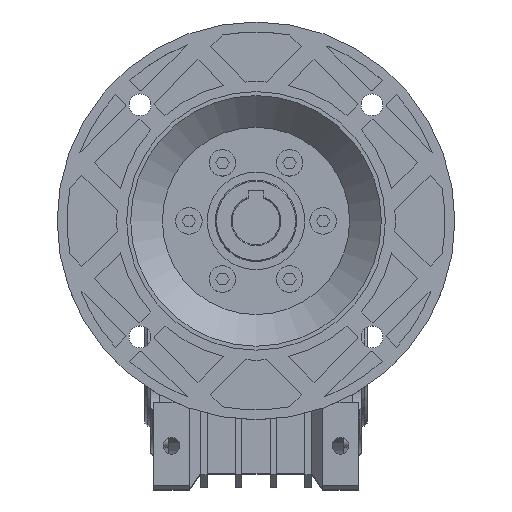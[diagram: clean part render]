
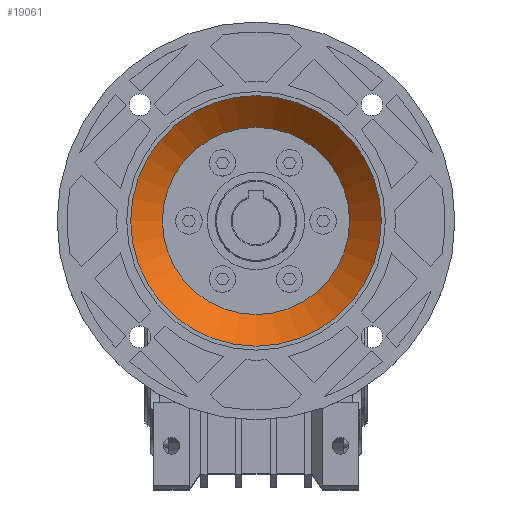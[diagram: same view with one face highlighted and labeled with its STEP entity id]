
A CAD part, top view. The second image highlights one B-rep face of the part: STEP entity #19061.
In plain terms, the highlighted conical face has half-angle 46.736 degrees and reference radius 47.062 mm.
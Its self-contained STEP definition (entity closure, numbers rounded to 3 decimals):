
#122=CONICAL_SURFACE('',#20802,47.063,0.816);
#1886=LINE('',#31517,#3668);
#3668=VECTOR('',#25979,47.063);
#5176=FACE_OUTER_BOUND('',#6347,.T.);
#6347=EDGE_LOOP('',(#16334,#16335,#16336,#16337));
#7054=CIRCLE('',#20789,63.);
#7061=CIRCLE('',#20803,47.063);
#8737=VERTEX_POINT('',#31492);
#8744=VERTEX_POINT('',#31515);
#11277=EDGE_CURVE('',#8737,#8737,#7054,.T.);
#11286=EDGE_CURVE('',#8744,#8744,#7061,.T.);
#11287=EDGE_CURVE('',#8744,#8737,#1886,.T.);
#16334=ORIENTED_EDGE('',*,*,#11286,.T.);
#16335=ORIENTED_EDGE('',*,*,#11287,.T.);
#16336=ORIENTED_EDGE('',*,*,#11277,.F.);
#16337=ORIENTED_EDGE('',*,*,#11287,.F.);
#19061=ADVANCED_FACE('',(#5176),#122,.F.);
#20789=AXIS2_PLACEMENT_3D('',#31493,#25947,#25948);
#20802=AXIS2_PLACEMENT_3D('',#31514,#25975,#25976);
#20803=AXIS2_PLACEMENT_3D('',#31516,#25977,#25978);
#25947=DIRECTION('center_axis',(0.,0.,
-1.));
#25948=DIRECTION('ref_axis',(-1.,0.,0.));
#25975=DIRECTION('center_axis',(0.,0.,
1.));
#25976=DIRECTION('ref_axis',(1.,0.,0.));
#25977=DIRECTION('center_axis',(0.,0.,
-1.));
#25978=DIRECTION('ref_axis',(-1.,0.,0.));
#25979=DIRECTION('',(-0.728,0.,0.685));
#31492=CARTESIAN_POINT('',(264.449,147.109,264.84));
#31493=CARTESIAN_POINT('Origin',(327.449,147.109,264.84));
#31514=CARTESIAN_POINT('Origin',(327.449,147.109,249.84));
#31515=CARTESIAN_POINT('',(280.386,147.109,249.84));
#31516=CARTESIAN_POINT('Origin',(327.449,147.109,249.84));
#31517=CARTESIAN_POINT('',(280.386,147.109,249.84));
